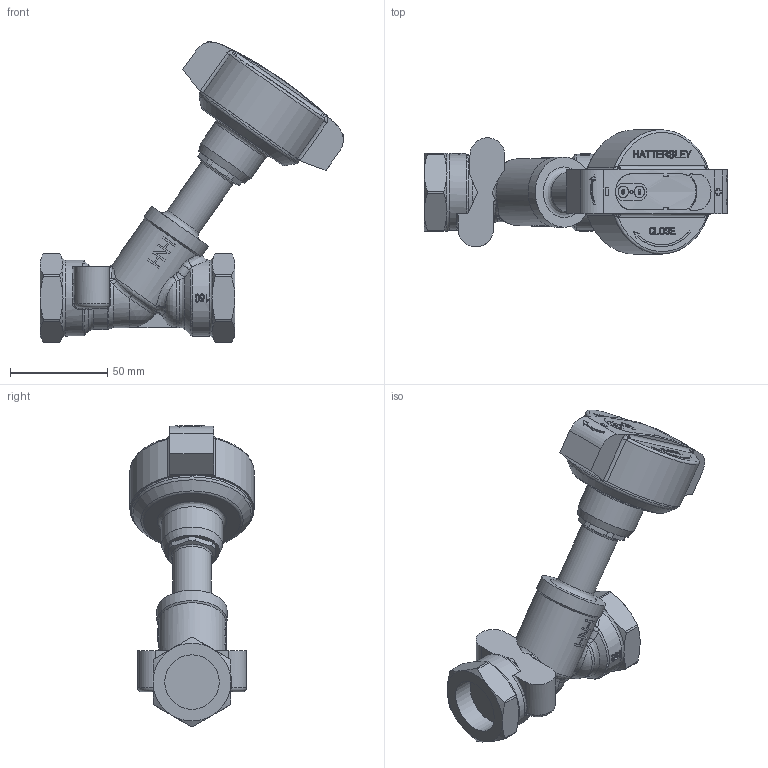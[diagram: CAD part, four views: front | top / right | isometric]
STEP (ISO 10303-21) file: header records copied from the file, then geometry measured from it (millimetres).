
FILE_DESCRIPTION((''),'2;1');
FILE_NAME('P:\Fastrack\53972_CRANE 3D\Workspace\HATTERSLEY\Fig-1432_1in\Fig-1432_1in.stp','2011-03-07T12:53:04',('btaylor'),(''),'Autodesk Inventor 2008','Autodesk Inventor 2008','');
FILE_SCHEMA(('AUTOMOTIVE_DESIGN { 1 0 10303 214 1 1 1 1 }'));
Length unit declared in the file: millimetre
Products named in the file (1): Fig-1432_1in
Bounding box: 155.97 x 63.85 x 154.55 mm (x, y, z)
Volume: 267637.9 mm3; surface area: 39413.5 mm2
Topology: 1 solids, 1 shells, 638 faces, 1676 edges, 1086 vertices
Faces by surface type: plane 288, bspline 216, cylinder 87, cone 32, torus 13, sphere 2
Full cylindrical faces by diameter (mm): 20 x1, 31.5 x1, 36 x1, 39 x2, 61.958 x1
Entity records: 59643 total; most frequent: CARTESIAN_POINT 45013, ORIENTED_EDGE 3278, DIRECTION 2182, EDGE_CURVE 1639, VERTEX_POINT 1071, VECTOR 772, LINE 772, EDGE_LOOP 713
